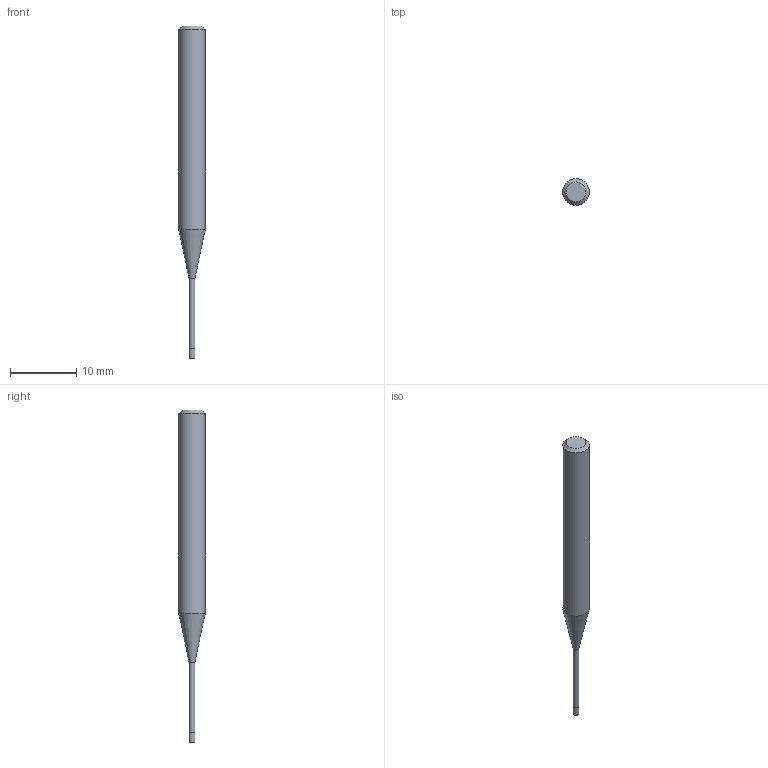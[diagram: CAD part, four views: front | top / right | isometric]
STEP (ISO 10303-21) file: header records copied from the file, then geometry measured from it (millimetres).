
FILE_DESCRIPTION((''),'2;1');
FILE_NAME('C:\Users\nsx150\AppData\Local\Temp\Mastercam 2021\17T8Q8S9EB\TEMP.step','2021-04-21T14:25:37',(''),(''),'STEP Write','Mastercam 2021 ... CNC Software, Inc.','');
FILE_SCHEMA(('AUTOMOTIVE_DESIGN'));
Length unit declared in the file: millimetre
Products named in the file (1): None
Bounding box: 4 x 4 x 50 mm (x, y, z)
Volume: 429.3 mm3; surface area: 485.4 mm2
Topology: 2 solids, 2 shells, 9 faces, 12 edges, 7 vertices
Faces by surface type: plane 4, cylinder 3, cone 2
Full cylindrical faces by diameter (mm): 0.86 x1, 0.9 x1, 4 x1
Entity records: 211 total; most frequent: DIRECTION 36, CARTESIAN_POINT 25, AXIS2_PLACEMENT_3D 18, ORIENTED_EDGE 14, EDGE_LOOP 14, STYLED_ITEM 12, ADVANCED_FACE 9, FACE_BOUND 8
